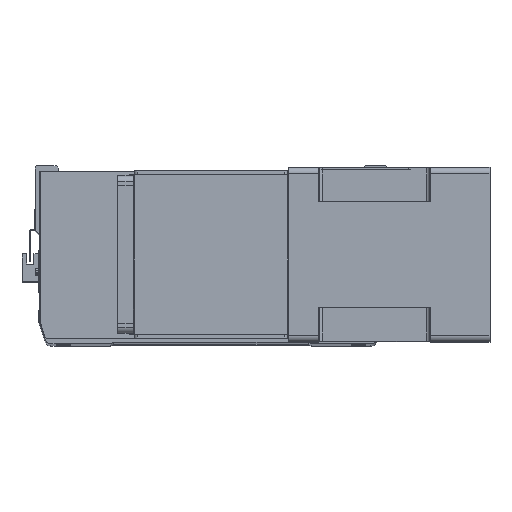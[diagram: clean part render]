
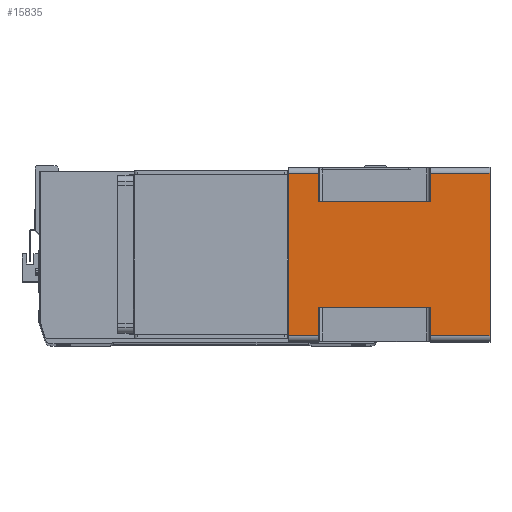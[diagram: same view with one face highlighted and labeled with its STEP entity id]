
A CAD part, top view. The second image highlights one B-rep face of the part: STEP entity #15835.
In plain terms, the highlighted planar face has unit normal (0, 0, 1) as drawn and (1, 0, 0) by its records, which use the part's own axes.
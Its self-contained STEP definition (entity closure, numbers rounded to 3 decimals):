
#9 = ORIENTED_EDGE ( 'NONE', *, *, #23642, .T. ) ;
#14 = VECTOR ( 'NONE', #9010, 1000. ) ;
#108 = VECTOR ( 'NONE', #25373, 1000. ) ;
#368 = EDGE_CURVE ( 'NONE', #20786, #20930, #25185, .T. ) ;
#483 = DIRECTION ( 'NONE',  ( 0., 1., 0. ) ) ;
#886 = EDGE_LOOP ( 'NONE', ( #28989, #21416, #8877, #1980, #21357, #19295, #1098, #9, #4732, #28038, #3509, #5964 ) ) ;
#1098 = ORIENTED_EDGE ( 'NONE', *, *, #26240, .F. ) ;
#1230 = CARTESIAN_POINT ( 'NONE',  ( 71., -66., -164. ) ) ;
#1618 = CARTESIAN_POINT ( 'NONE',  ( 71., -66., -164. ) ) ;
#1627 = DIRECTION ( 'NONE',  ( 0., 1., 0. ) ) ;
#1809 = VERTEX_POINT ( 'NONE', #19780 ) ;
#1980 = ORIENTED_EDGE ( 'NONE', *, *, #8327, .T. ) ;
#2332 = VECTOR ( 'NONE', #18551, 1000. ) ;
#2691 = VERTEX_POINT ( 'NONE', #11507 ) ;
#2975 = VECTOR ( 'NONE', #14483, 1000. ) ;
#2991 = DIRECTION ( 'NONE',  ( 1., 0., 0. ) ) ;
#3138 = EDGE_CURVE ( 'NONE', #9005, #5872, #21802, .T. ) ;
#3509 = ORIENTED_EDGE ( 'NONE', *, *, #368, .F. ) ;
#3579 = DIRECTION ( 'NONE',  ( 0., 0., 1. ) ) ;
#3851 = VERTEX_POINT ( 'NONE', #24414 ) ;
#4346 = VECTOR ( 'NONE', #483, 1000. ) ;
#4533 = CARTESIAN_POINT ( 'NONE',  ( 71., 66., -164. ) ) ;
#4732 = ORIENTED_EDGE ( 'NONE', *, *, #10753, .T. ) ;
#5476 = VERTEX_POINT ( 'NONE', #28480 ) ;
#5872 = VERTEX_POINT ( 'NONE', #11722 ) ;
#5964 = ORIENTED_EDGE ( 'NONE', *, *, #7123, .T. ) ;
#6358 = DIRECTION ( 'NONE',  ( 0., 1., 0. ) ) ;
#6874 = VECTOR ( 'NONE', #6358, 1000. ) ;
#6931 = VERTEX_POINT ( 'NONE', #14465 ) ;
#7080 = LINE ( 'NONE', #8704, #2332 ) ;
#7123 = EDGE_CURVE ( 'NONE', #20786, #5872, #24029, .T. ) ;
#7626 = LINE ( 'NONE', #10668, #6874 ) ;
#7714 = VERTEX_POINT ( 'NONE', #11348 ) ;
#7737 = LINE ( 'NONE', #28202, #2975 ) ;
#7802 = DIRECTION ( 'NONE',  ( 0., 0., 1. ) ) ;
#8183 = CARTESIAN_POINT ( 'NONE',  ( 71., -66., 0. ) ) ;
#8327 = EDGE_CURVE ( 'NONE', #26538, #24574, #14092, .T. ) ;
#8613 = VECTOR ( 'NONE', #24893, 1000. ) ;
#8704 = CARTESIAN_POINT ( 'NONE',  ( 71., -66., -115.5 ) ) ;
#8768 = CARTESIAN_POINT ( 'NONE',  ( 71., -66., -164. ) ) ;
#8877 = ORIENTED_EDGE ( 'NONE', *, *, #24171, .F. ) ;
#9005 = VERTEX_POINT ( 'NONE', #10340 ) ;
#9009 = VECTOR ( 'NONE', #7802, 1000. ) ;
#9010 = DIRECTION ( 'NONE',  ( 0., 0., 1. ) ) ;
#10340 = CARTESIAN_POINT ( 'NONE',  ( 71., -43., -115.5 ) ) ;
#10668 = CARTESIAN_POINT ( 'NONE',  ( 71., -66., -24.5 ) ) ;
#10753 = EDGE_CURVE ( 'NONE', #3851, #5476, #17121, .T. ) ;
#11319 = EDGE_CURVE ( 'NONE', #7714, #2691, #7737, .T. ) ;
#11348 = CARTESIAN_POINT ( 'NONE',  ( 71., 66., -115.5 ) ) ;
#11507 = CARTESIAN_POINT ( 'NONE',  ( 71., 43., -115.5 ) ) ;
#11722 = CARTESIAN_POINT ( 'NONE',  ( 71., -43., -24.5 ) ) ;
#11764 = DIRECTION ( 'NONE',  ( 0., 0., -1. ) ) ;
#13799 = CARTESIAN_POINT ( 'NONE',  ( 71., 66., -164. ) ) ;
#14092 = LINE ( 'NONE', #14332, #4346 ) ;
#14180 = CARTESIAN_POINT ( 'NONE',  ( 71., 43., -164. ) ) ;
#14332 = CARTESIAN_POINT ( 'NONE',  ( 71., -66., -164. ) ) ;
#14373 = CARTESIAN_POINT ( 'NONE',  ( 71., -66., -164. ) ) ;
#14465 = CARTESIAN_POINT ( 'NONE',  ( 71., 43., -24.5 ) ) ;
#14483 = DIRECTION ( 'NONE',  ( 0., -1., 0. ) ) ;
#15054 = CARTESIAN_POINT ( 'NONE',  ( 71., -43., -24.5 ) ) ;
#15329 = CARTESIAN_POINT ( 'NONE',  ( 71., -66., 0. ) ) ;
#15461 = DIRECTION ( 'NONE',  ( 0., 0., 1. ) ) ;
#15835 = ADVANCED_FACE ( 'NONE', ( #25948 ), #19161, .T. ) ;
#16820 = AXIS2_PLACEMENT_3D ( 'NONE', #14373, #2991, #28488 ) ;
#17073 = VECTOR ( 'NONE', #15461, 1000. ) ;
#17121 = LINE ( 'NONE', #13799, #108 ) ;
#18147 = CARTESIAN_POINT ( 'NONE',  ( 71., -43., -164. ) ) ;
#18551 = DIRECTION ( 'NONE',  ( 0., -1., 0. ) ) ;
#19161 = PLANE ( 'NONE',  #16820 ) ;
#19295 = ORIENTED_EDGE ( 'NONE', *, *, #11319, .T. ) ;
#19774 = EDGE_CURVE ( 'NONE', #24574, #7714, #29959, .T. ) ;
#19780 = CARTESIAN_POINT ( 'NONE',  ( 71., -66., -115.5 ) ) ;
#19898 = VECTOR ( 'NONE', #11764, 1000. ) ;
#20520 = EDGE_CURVE ( 'NONE', #20930, #5476, #25585, .T. ) ;
#20786 = VERTEX_POINT ( 'NONE', #28486 ) ;
#20930 = VERTEX_POINT ( 'NONE', #8183 ) ;
#21357 = ORIENTED_EDGE ( 'NONE', *, *, #19774, .T. ) ;
#21378 = LINE ( 'NONE', #14180, #19898 ) ;
#21416 = ORIENTED_EDGE ( 'NONE', *, *, #24565, .T. ) ;
#21521 = VECTOR ( 'NONE', #1627, 1000. ) ;
#21802 = LINE ( 'NONE', #18147, #14 ) ;
#23642 = EDGE_CURVE ( 'NONE', #6931, #3851, #7626, .T. ) ;
#24029 = LINE ( 'NONE', #15054, #21521 ) ;
#24103 = VECTOR ( 'NONE', #3579, 1000. ) ;
#24171 = EDGE_CURVE ( 'NONE', #26538, #1809, #28049, .T. ) ;
#24414 = CARTESIAN_POINT ( 'NONE',  ( 71., 66., -24.5 ) ) ;
#24565 = EDGE_CURVE ( 'NONE', #9005, #1809, #7080, .T. ) ;
#24574 = VERTEX_POINT ( 'NONE', #4533 ) ;
#24893 = DIRECTION ( 'NONE',  ( 0., 1., 0. ) ) ;
#25185 = LINE ( 'NONE', #1618, #24103 ) ;
#25373 = DIRECTION ( 'NONE',  ( 0., 0., 1. ) ) ;
#25585 = LINE ( 'NONE', #15329, #8613 ) ;
#25948 = FACE_OUTER_BOUND ( 'NONE', #886, .T. ) ;
#26240 = EDGE_CURVE ( 'NONE', #6931, #2691, #21378, .T. ) ;
#26538 = VERTEX_POINT ( 'NONE', #1230 ) ;
#28038 = ORIENTED_EDGE ( 'NONE', *, *, #20520, .F. ) ;
#28049 = LINE ( 'NONE', #8768, #17073 ) ;
#28202 = CARTESIAN_POINT ( 'NONE',  ( 71., 43., -115.5 ) ) ;
#28480 = CARTESIAN_POINT ( 'NONE',  ( 71., 66., 0. ) ) ;
#28486 = CARTESIAN_POINT ( 'NONE',  ( 71., -66., -24.5 ) ) ;
#28488 = DIRECTION ( 'NONE',  ( 0., 1., 0. ) ) ;
#28882 = CARTESIAN_POINT ( 'NONE',  ( 71., 66., -164. ) ) ;
#28989 = ORIENTED_EDGE ( 'NONE', *, *, #3138, .F. ) ;
#29959 = LINE ( 'NONE', #28882, #9009 ) ;
